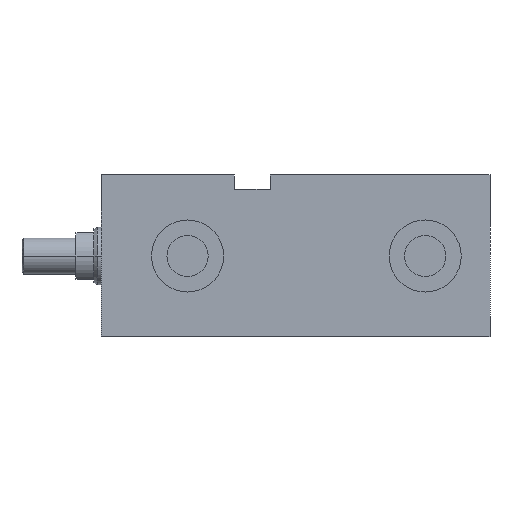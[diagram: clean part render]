
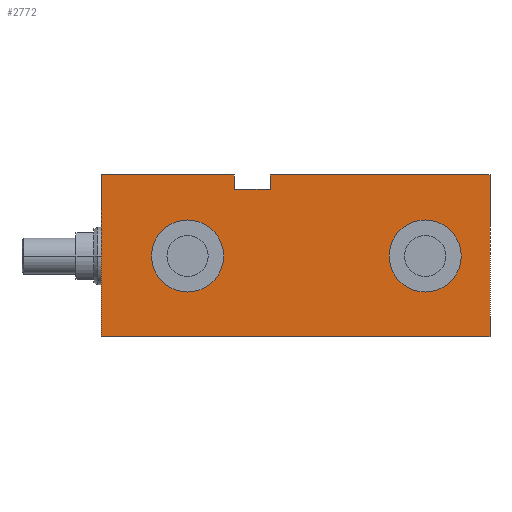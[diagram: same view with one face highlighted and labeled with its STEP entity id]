
A CAD part, left-side view. The second image highlights one B-rep face of the part: STEP entity #2772.
In plain terms, the highlighted planar face has unit normal (-1, 0, 0).
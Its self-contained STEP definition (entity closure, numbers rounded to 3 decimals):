
#18 = LINE ( 'NONE', #940, #2281 ) ;
#40 = CARTESIAN_POINT ( 'NONE',  ( -32.5, 84., 0. ) ) ;
#62 = VECTOR ( 'NONE', #160, 1000. ) ;
#64 = ORIENTED_EDGE ( 'NONE', *, *, #1607, .F. ) ;
#100 = DIRECTION ( 'NONE',  ( 0., 0., 1. ) ) ;
#102 = ORIENTED_EDGE ( 'NONE', *, *, #147, .T. ) ;
#123 = CARTESIAN_POINT ( 'NONE',  ( -32.5, 0., 22.5 ) ) ;
#147 = EDGE_CURVE ( 'NONE', #2287, #2460, #1694, .T. ) ;
#160 = DIRECTION ( 'NONE',  ( 0., -1., 0. ) ) ;
#184 = CARTESIAN_POINT ( 'NONE',  ( -32.5, 84., 10. ) ) ;
#210 = EDGE_CURVE ( 'NONE', #1723, #2153, #1127, .T. ) ;
#261 = EDGE_CURVE ( 'NONE', #1121, #2818, #2138, .T. ) ;
#266 = ORIENTED_EDGE ( 'NONE', *, *, #816, .F. ) ;
#290 = DIRECTION ( 'NONE',  ( -1., 0., 0. ) ) ;
#303 = CARTESIAN_POINT ( 'NONE',  ( -32.5, 71., 18.5 ) ) ;
#304 = CARTESIAN_POINT ( 'NONE',  ( -32.5, 61., 22.5 ) ) ;
#340 = LINE ( 'NONE', #1259, #1749 ) ;
#366 = CARTESIAN_POINT ( 'NONE',  ( -32.5, 0., -22.5 ) ) ;
#384 = VECTOR ( 'NONE', #2184, 1000. ) ;
#421 = LINE ( 'NONE', #1145, #2382 ) ;
#454 = DIRECTION ( 'NONE',  ( 0., 0., 1. ) ) ;
#460 = CIRCLE ( 'NONE', #1281, 10. ) ;
#471 = EDGE_LOOP ( 'NONE', ( #2903, #1709 ) ) ;
#499 = DIRECTION ( 'NONE',  ( 0., 0., 1. ) ) ;
#523 = LINE ( 'NONE', #366, #2067 ) ;
#531 = CARTESIAN_POINT ( 'NONE',  ( -32.5, 18., -10. ) ) ;
#546 = DIRECTION ( 'NONE',  ( 0., 0., 1. ) ) ;
#555 = EDGE_CURVE ( 'NONE', #2818, #1121, #2455, .T. ) ;
#558 = AXIS2_PLACEMENT_3D ( 'NONE', #560, #2173, #546 ) ;
#560 = CARTESIAN_POINT ( 'NONE',  ( -32.5, 18., 0. ) ) ;
#568 = ORIENTED_EDGE ( 'NONE', *, *, #1386, .T. ) ;
#597 = DIRECTION ( 'NONE',  ( 0., -1., 0. ) ) ;
#710 = DIRECTION ( 'NONE',  ( -1., 0., 0. ) ) ;
#754 = CARTESIAN_POINT ( 'NONE',  ( -32.5, 84., -10. ) ) ;
#807 = VERTEX_POINT ( 'NONE', #754 ) ;
#816 = EDGE_CURVE ( 'NONE', #1723, #1184, #1345, .T. ) ;
#836 = CARTESIAN_POINT ( 'NONE',  ( -32.5, 0., -22.5 ) ) ;
#840 = EDGE_CURVE ( 'NONE', #1184, #2460, #18, .T. ) ;
#896 = ORIENTED_EDGE ( 'NONE', *, *, #2254, .F. ) ;
#940 = CARTESIAN_POINT ( 'NONE',  ( -32.5, 58., 22.5 ) ) ;
#982 = DIRECTION ( 'NONE',  ( -1., 0., 0. ) ) ;
#985 = EDGE_CURVE ( 'NONE', #807, #1385, #460, .T. ) ;
#1038 = AXIS2_PLACEMENT_3D ( 'NONE', #1624, #710, #454 ) ;
#1041 = EDGE_LOOP ( 'NONE', ( #64, #2262 ) ) ;
#1121 = VERTEX_POINT ( 'NONE', #1601 ) ;
#1127 = LINE ( 'NONE', #1986, #62 ) ;
#1145 = CARTESIAN_POINT ( 'NONE',  ( -32.5, 58., 22.5 ) ) ;
#1150 = EDGE_CURVE ( 'NONE', #2073, #2503, #421, .T. ) ;
#1184 = VERTEX_POINT ( 'NONE', #1492 ) ;
#1210 = CARTESIAN_POINT ( 'NONE',  ( -32.5, 84., 0. ) ) ;
#1259 = CARTESIAN_POINT ( 'NONE',  ( -32.5, 61., 18.5 ) ) ;
#1271 = VECTOR ( 'NONE', #499, 1000. ) ;
#1281 = AXIS2_PLACEMENT_3D ( 'NONE', #40, #290, #2585 ) ;
#1318 = EDGE_LOOP ( 'NONE', ( #2089, #2915, #896, #102, #1936, #266, #1591, #568 ) ) ;
#1345 = LINE ( 'NONE', #1854, #1271 ) ;
#1348 = DIRECTION ( 'NONE',  ( 0., 0., 1. ) ) ;
#1385 = VERTEX_POINT ( 'NONE', #184 ) ;
#1386 = EDGE_CURVE ( 'NONE', #2153, #2503, #523, .T. ) ;
#1420 = DIRECTION ( 'NONE',  ( 0., -1., 0. ) ) ;
#1468 = DIRECTION ( 'NONE',  ( 1., 0., 0. ) ) ;
#1492 = CARTESIAN_POINT ( 'NONE',  ( -32.5, 108., 22.5 ) ) ;
#1512 = CIRCLE ( 'NONE', #2259, 10. ) ;
#1560 = VERTEX_POINT ( 'NONE', #1832 ) ;
#1591 = ORIENTED_EDGE ( 'NONE', *, *, #210, .T. ) ;
#1601 = CARTESIAN_POINT ( 'NONE',  ( -32.5, 18., 10. ) ) ;
#1607 = EDGE_CURVE ( 'NONE', #1385, #807, #1512, .T. ) ;
#1624 = CARTESIAN_POINT ( 'NONE',  ( -32.5, 18., 0. ) ) ;
#1644 = FACE_OUTER_BOUND ( 'NONE', #1318, .T. ) ;
#1694 = LINE ( 'NONE', #303, #384 ) ;
#1709 = ORIENTED_EDGE ( 'NONE', *, *, #555, .F. ) ;
#1723 = VERTEX_POINT ( 'NONE', #1905 ) ;
#1749 = VECTOR ( 'NONE', #100, 1000. ) ;
#1832 = CARTESIAN_POINT ( 'NONE',  ( -32.5, 61., 18.5 ) ) ;
#1854 = CARTESIAN_POINT ( 'NONE',  ( -32.5, 108., -22.5 ) ) ;
#1860 = VECTOR ( 'NONE', #597, 1000. ) ;
#1903 = DIRECTION ( 'NONE',  ( 0., 0., -1. ) ) ;
#1905 = CARTESIAN_POINT ( 'NONE',  ( -32.5, 108., -22.5 ) ) ;
#1936 = ORIENTED_EDGE ( 'NONE', *, *, #840, .F. ) ;
#1986 = CARTESIAN_POINT ( 'NONE',  ( -32.5, 58., -22.5 ) ) ;
#2056 = FACE_BOUND ( 'NONE', #1041, .T. ) ;
#2067 = VECTOR ( 'NONE', #1348, 1000. ) ;
#2073 = VERTEX_POINT ( 'NONE', #304 ) ;
#2089 = ORIENTED_EDGE ( 'NONE', *, *, #1150, .F. ) ;
#2108 = DIRECTION ( 'NONE',  ( 0., 0., 1. ) ) ;
#2138 = CIRCLE ( 'NONE', #1038, 10. ) ;
#2153 = VERTEX_POINT ( 'NONE', #836 ) ;
#2173 = DIRECTION ( 'NONE',  ( -1., 0., 0. ) ) ;
#2184 = DIRECTION ( 'NONE',  ( 0., 0., 1. ) ) ;
#2192 = AXIS2_PLACEMENT_3D ( 'NONE', #2590, #1468, #1903 ) ;
#2254 = EDGE_CURVE ( 'NONE', #2287, #1560, #2273, .T. ) ;
#2259 = AXIS2_PLACEMENT_3D ( 'NONE', #1210, #982, #2108 ) ;
#2262 = ORIENTED_EDGE ( 'NONE', *, *, #985, .F. ) ;
#2273 = LINE ( 'NONE', #2690, #1860 ) ;
#2281 = VECTOR ( 'NONE', #1420, 1000. ) ;
#2287 = VERTEX_POINT ( 'NONE', #2423 ) ;
#2291 = PLANE ( 'NONE',  #2192 ) ;
#2382 = VECTOR ( 'NONE', #2745, 1000. ) ;
#2423 = CARTESIAN_POINT ( 'NONE',  ( -32.5, 71., 18.5 ) ) ;
#2455 = CIRCLE ( 'NONE', #558, 10. ) ;
#2460 = VERTEX_POINT ( 'NONE', #2509 ) ;
#2503 = VERTEX_POINT ( 'NONE', #123 ) ;
#2509 = CARTESIAN_POINT ( 'NONE',  ( -32.5, 71., 22.5 ) ) ;
#2585 = DIRECTION ( 'NONE',  ( 0., 0., 1. ) ) ;
#2590 = CARTESIAN_POINT ( 'NONE',  ( -32.5, 58., -22.5 ) ) ;
#2656 = FACE_BOUND ( 'NONE', #471, .T. ) ;
#2690 = CARTESIAN_POINT ( 'NONE',  ( -32.5, 71., 18.5 ) ) ;
#2745 = DIRECTION ( 'NONE',  ( 0., -1., 0. ) ) ;
#2772 = ADVANCED_FACE ( 'NONE', ( #1644, #2656, #2056 ), #2291, .F. ) ;
#2818 = VERTEX_POINT ( 'NONE', #531 ) ;
#2889 = EDGE_CURVE ( 'NONE', #1560, #2073, #340, .T. ) ;
#2903 = ORIENTED_EDGE ( 'NONE', *, *, #261, .F. ) ;
#2915 = ORIENTED_EDGE ( 'NONE', *, *, #2889, .F. ) ;
